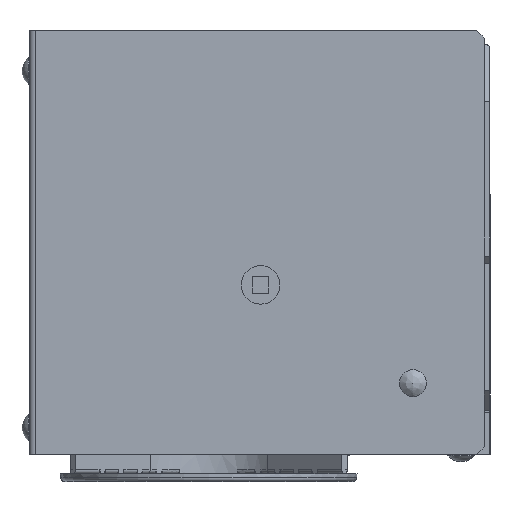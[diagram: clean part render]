
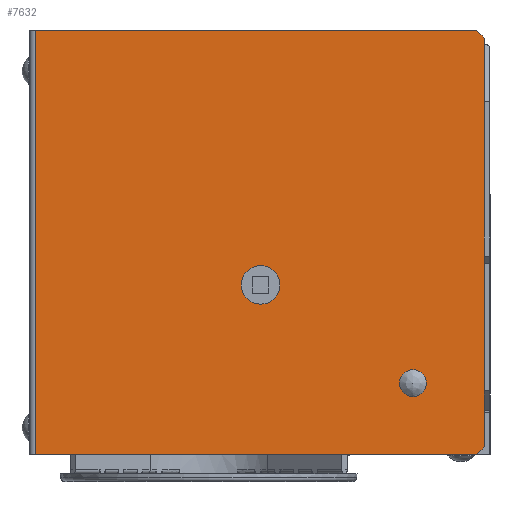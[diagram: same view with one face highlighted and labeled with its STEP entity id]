
A CAD part, left-side view. The second image highlights one B-rep face of the part: STEP entity #7632.
In plain terms, the highlighted planar face has unit normal (-1, 0, 0).
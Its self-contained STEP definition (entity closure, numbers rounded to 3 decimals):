
#7520=CARTESIAN_POINT('',(-150.,58.,-55.99));
#7521=VERTEX_POINT('',#7520);
#7522=CARTESIAN_POINT('',(-150.,58.,-60.99));
#7523=DIRECTION('',(1.0,0.0,0.0));
#7524=DIRECTION('',(0.0,0.0,-1.0));
#7525=AXIS2_PLACEMENT_3D('',#7522,#7523,#7524);
#7526=CIRCLE('',#7525,5.0);
#7527=EDGE_CURVE('',#7521,#7521,#7526,.T.);
#7547=CARTESIAN_POINT('',(-150.,0.0,1.5));
#7548=DIRECTION('',(-1.0,0.0,0.0));
#7549=DIRECTION('',(0.0,0.0,1.0));
#7550=AXIS2_PLACEMENT_3D('',#7547,#7548,#7549);
#7551=PLANE('',#7550);
#7552=CARTESIAN_POINT('',(-150.,0.,-102.99));
#7553=VERTEX_POINT('',#7552);
#7554=CARTESIAN_POINT('',(-150.,2.,-104.99));
#7555=VERTEX_POINT('',#7554);
#7556=CARTESIAN_POINT('',(-150.,0.,-102.99));
#7557=DIRECTION('',(0.0,0.707,-0.707));
#7558=VECTOR('',#7557,2.828);
#7559=LINE('',#7556,#7558);
#7560=EDGE_CURVE('',#7553,#7555,#7559,.T.);
#7561=ORIENTED_EDGE('',*,*,#7560,.F.);
#7562=CARTESIAN_POINT('',(-150.,0.,-93.5));
#7563=VERTEX_POINT('',#7562);
#7564=CARTESIAN_POINT('',(-150.,0.,-102.99));
#7565=DIRECTION('',(0.0,0.0,1.0));
#7566=VECTOR('',#7565,9.49);
#7567=LINE('',#7564,#7566);
#7568=EDGE_CURVE('',#7553,#7563,#7567,.T.);
#7569=ORIENTED_EDGE('',*,*,#7568,.T.);
#7570=CARTESIAN_POINT('',(-150.,0.0,1.5));
#7571=VERTEX_POINT('',#7570);
#7572=CARTESIAN_POINT('',(-150.,0.,1.5));
#7573=DIRECTION('',(0.0,0.0,-1.0));
#7574=VECTOR('',#7573,95.);
#7575=LINE('',#7572,#7574);
#7576=EDGE_CURVE('',#7571,#7563,#7575,.T.);
#7577=ORIENTED_EDGE('',*,*,#7576,.F.);
#7578=CARTESIAN_POINT('',(-150.,0.,3.01));
#7579=VERTEX_POINT('',#7578);
#7580=CARTESIAN_POINT('',(-150.,0.,1.5));
#7581=DIRECTION('',(0.0,0.0,1.0));
#7582=VECTOR('',#7581,1.51);
#7583=LINE('',#7580,#7582);
#7584=EDGE_CURVE('',#7571,#7579,#7583,.T.);
#7585=ORIENTED_EDGE('',*,*,#7584,.T.);
#7586=CARTESIAN_POINT('',(-150.,2.,5.01));
#7587=VERTEX_POINT('',#7586);
#7588=CARTESIAN_POINT('',(-150.,2.,5.01));
#7589=DIRECTION('',(0.0,-0.707,-0.707));
#7590=VECTOR('',#7589,2.828);
#7591=LINE('',#7588,#7590);
#7592=EDGE_CURVE('',#7587,#7579,#7591,.T.);
#7593=ORIENTED_EDGE('',*,*,#7592,.F.);
#7594=CARTESIAN_POINT('',(-150.,116.5,5.01));
#7595=VERTEX_POINT('',#7594);
#7596=CARTESIAN_POINT('',(-150.,2.,5.01));
#7597=DIRECTION('',(0.0,1.0,0.0));
#7598=VECTOR('',#7597,114.5);
#7599=LINE('',#7596,#7598);
#7600=EDGE_CURVE('',#7587,#7595,#7599,.T.);
#7601=ORIENTED_EDGE('',*,*,#7600,.T.);
#7602=CARTESIAN_POINT('',(-150.,116.5,-104.99));
#7603=VERTEX_POINT('',#7602);
#7604=CARTESIAN_POINT('',(-150.,116.5,5.01));
#7605=DIRECTION('',(0.0,0.0,-1.0));
#7606=VECTOR('',#7605,110.);
#7607=LINE('',#7604,#7606);
#7608=EDGE_CURVE('',#7595,#7603,#7607,.T.);
#7609=ORIENTED_EDGE('',*,*,#7608,.T.);
#7610=CARTESIAN_POINT('',(-150.,116.5,-104.99));
#7611=DIRECTION('',(0.0,-1.0,0.0));
#7612=VECTOR('',#7611,114.5);
#7613=LINE('',#7610,#7612);
#7614=EDGE_CURVE('',#7603,#7555,#7613,.T.);
#7615=ORIENTED_EDGE('',*,*,#7614,.T.);
#7616=EDGE_LOOP('',(#7561,#7569,#7577,#7585,#7593,#7601,#7609,#7615));
#7617=FACE_OUTER_BOUND('',#7616,.T.);
#7618=CARTESIAN_POINT('',(-150.,18.5,-90.));
#7619=VERTEX_POINT('',#7618);
#7620=CARTESIAN_POINT('',(-150.,18.5,-86.5));
#7621=DIRECTION('',(1.0,0.0,0.0));
#7622=DIRECTION('',(0.0,0.0,-1.0));
#7623=AXIS2_PLACEMENT_3D('',#7620,#7621,#7622);
#7624=CIRCLE('',#7623,3.5);
#7625=EDGE_CURVE('',#7619,#7619,#7624,.T.);
#7626=ORIENTED_EDGE('',*,*,#7625,.T.);
#7627=EDGE_LOOP('',(#7626));
#7628=FACE_BOUND('',#7627,.T.);
#7629=ORIENTED_EDGE('',*,*,#7527,.T.);
#7630=EDGE_LOOP('',(#7629));
#7631=FACE_BOUND('',#7630,.T.);
#7632=ADVANCED_FACE('',(#7617,#7628,#7631),#7551,.T.);
